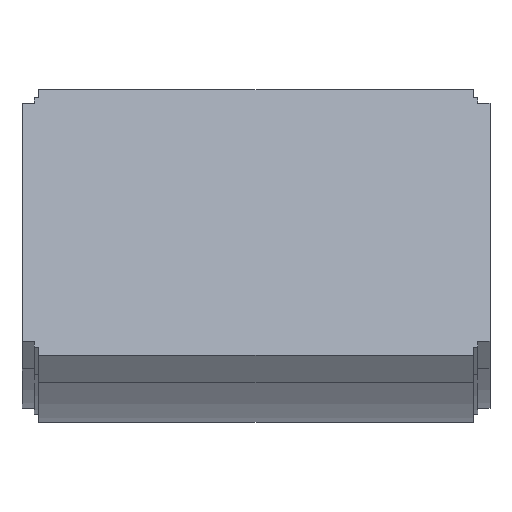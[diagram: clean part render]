
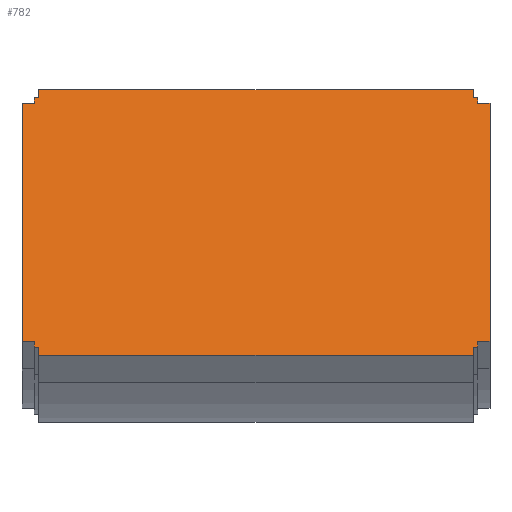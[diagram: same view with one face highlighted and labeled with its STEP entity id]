
A CAD part, top view. The second image highlights one B-rep face of the part: STEP entity #782.
In plain terms, the highlighted planar face has unit normal (0, 0.259, 0.966).
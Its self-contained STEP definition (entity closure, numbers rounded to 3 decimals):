
#21 = VERTEX_POINT ( 'NONE', #865 ) ;
#25 = ORIENTED_EDGE ( 'NONE', *, *, #665, .T. ) ;
#36 = VERTEX_POINT ( 'NONE', #970 ) ;
#56 = DIRECTION ( 'NONE',  ( 0., -0.966, 0.259 ) ) ;
#96 = CARTESIAN_POINT ( 'NONE',  ( 107.95, -31.436, 249.25 ) ) ;
#98 = DIRECTION ( 'NONE',  ( 0., -0.966, 0.259 ) ) ;
#105 = LINE ( 'NONE', #681, #911 ) ;
#112 = ORIENTED_EDGE ( 'NONE', *, *, #1090, .T. ) ;
#115 = VECTOR ( 'NONE', #56, 1000. ) ;
#126 = VERTEX_POINT ( 'NONE', #457 ) ;
#139 = VERTEX_POINT ( 'NONE', #1088 ) ;
#143 = EDGE_CURVE ( 'NONE', #708, #36, #1268, .T. ) ;
#144 = DIRECTION ( 'NONE',  ( 1., 0., 0. ) ) ;
#153 = DIRECTION ( 'NONE',  ( 0., -0.966, 0.259 ) ) ;
#165 = LINE ( 'NONE', #1083, #643 ) ;
#168 = ORIENTED_EDGE ( 'NONE', *, *, #187, .T. ) ;
#169 = VERTEX_POINT ( 'NONE', #779 ) ;
#187 = EDGE_CURVE ( 'NONE', #1043, #676, #1000, .T. ) ;
#195 = LINE ( 'NONE', #1354, #1125 ) ;
#197 = FACE_OUTER_BOUND ( 'NONE', #583, .T. ) ;
#201 = EDGE_CURVE ( 'NONE', #903, #139, #1013, .T. ) ;
#210 = AXIS2_PLACEMENT_3D ( 'NONE', #416, #830, #1140 ) ;
#244 = EDGE_CURVE ( 'NONE', #1035, #21, #450, .T. ) ;
#251 = VECTOR ( 'NONE', #874, 1000. ) ;
#255 = CARTESIAN_POINT ( 'NONE',  ( -110.25, 89.788, 216.768 ) ) ;
#262 = CARTESIAN_POINT ( 'NONE',  ( 110.25, 89.788, 216.768 ) ) ;
#265 = CARTESIAN_POINT ( 'NONE',  ( 107.95, 96.55, 214.956 ) ) ;
#283 = CARTESIAN_POINT ( 'NONE',  ( -110.25, -31.436, 249.25 ) ) ;
#298 = VECTOR ( 'NONE', #1368, 1000. ) ;
#304 = ORIENTED_EDGE ( 'NONE', *, *, #1379, .T. ) ;
#308 = EDGE_CURVE ( 'NONE', #1371, #1171, #542, .T. ) ;
#316 = ORIENTED_EDGE ( 'NONE', *, *, #694, .T. ) ;
#329 = CARTESIAN_POINT ( 'NONE',  ( -110.25, -28.538, 248.473 ) ) ;
#330 = CARTESIAN_POINT ( 'NONE',  ( 107.95, 92.686, 215.992 ) ) ;
#333 = ORIENTED_EDGE ( 'NONE', *, *, #820, .T. ) ;
#343 = VERTEX_POINT ( 'NONE', #1131 ) ;
#346 = DIRECTION ( 'NONE',  ( -1., 0., 0. ) ) ;
#355 = EDGE_CURVE ( 'NONE', #36, #1396, #1159, .T. ) ;
#357 = ORIENTED_EDGE ( 'NONE', *, *, #143, .T. ) ;
#361 = DIRECTION ( 'NONE',  ( 0., -0.966, 0.259 ) ) ;
#370 = CARTESIAN_POINT ( 'NONE',  ( -107.95, -35.299, 250.285 ) ) ;
#380 = VECTOR ( 'NONE', #656, 1000. ) ;
#395 = CARTESIAN_POINT ( 'NONE',  ( 110.25, -31.436, 249.25 ) ) ;
#402 = EDGE_CURVE ( 'NONE', #1337, #708, #717, .T. ) ;
#406 = DIRECTION ( 'NONE',  ( -1., 0., 0. ) ) ;
#411 = DIRECTION ( 'NONE',  ( 0., 0.966, -0.259 ) ) ;
#416 = CARTESIAN_POINT ( 'NONE',  ( -107.95, 92.686, 215.992 ) ) ;
#432 = VECTOR ( 'NONE', #98, 1000. ) ;
#437 = DIRECTION ( 'NONE',  ( 0., -0.966, 0.259 ) ) ;
#450 = LINE ( 'NONE', #786, #1251 ) ;
#456 = EDGE_CURVE ( 'NONE', #21, #343, #813, .T. ) ;
#457 = CARTESIAN_POINT ( 'NONE',  ( 107.95, 92.686, 215.992 ) ) ;
#464 = DIRECTION ( 'NONE',  ( 0., 0.966, -0.259 ) ) ;
#469 = EDGE_CURVE ( 'NONE', #1171, #600, #1111, .T. ) ;
#474 = CARTESIAN_POINT ( 'NONE',  ( -110.25, -31.436, 249.25 ) ) ;
#475 = ORIENTED_EDGE ( 'NONE', *, *, #997, .T. ) ;
#481 = CARTESIAN_POINT ( 'NONE',  ( 107.95, -31.436, 249.25 ) ) ;
#496 = VECTOR ( 'NONE', #411, 1000. ) ;
#513 = CARTESIAN_POINT ( 'NONE',  ( -107.95, -31.436, 249.25 ) ) ;
#527 = VECTOR ( 'NONE', #144, 1000. ) ;
#542 = LINE ( 'NONE', #474, #527 ) ;
#549 = ORIENTED_EDGE ( 'NONE', *, *, #355, .T. ) ;
#551 = ORIENTED_EDGE ( 'NONE', *, *, #308, .T. ) ;
#573 = DIRECTION ( 'NONE',  ( -1., 0., 0. ) ) ;
#575 = CARTESIAN_POINT ( 'NONE',  ( -116.25, -28.538, 248.473 ) ) ;
#583 = EDGE_LOOP ( 'NONE', ( #670, #1130, #168, #1161, #316, #650, #551, #1135, #1046, #604, #357, #549, #112, #333, #25, #1216, #475, #304, #714, #831 ) ) ;
#584 = CARTESIAN_POINT ( 'NONE',  ( 116.25, 89.788, 216.768 ) ) ;
#590 = DIRECTION ( 'NONE',  ( 1., 0., 0. ) ) ;
#594 = EDGE_CURVE ( 'NONE', #343, #1043, #105, .T. ) ;
#600 = VERTEX_POINT ( 'NONE', #893 ) ;
#604 = ORIENTED_EDGE ( 'NONE', *, *, #402, .T. ) ;
#606 = VERTEX_POINT ( 'NONE', #575 ) ;
#617 = CARTESIAN_POINT ( 'NONE',  ( 116.25, -28.538, 248.473 ) ) ;
#632 = DIRECTION ( 'NONE',  ( 0., 0.966, -0.259 ) ) ;
#636 = VERTEX_POINT ( 'NONE', #265 ) ;
#643 = VECTOR ( 'NONE', #1070, 1000. ) ;
#650 = ORIENTED_EDGE ( 'NONE', *, *, #1034, .T. ) ;
#656 = DIRECTION ( 'NONE',  ( 1., 0., 0. ) ) ;
#665 = EDGE_CURVE ( 'NONE', #929, #903, #795, .T. ) ;
#666 = CARTESIAN_POINT ( 'NONE',  ( 110.25, -31.436, 249.25 ) ) ;
#670 = ORIENTED_EDGE ( 'NONE', *, *, #456, .T. ) ;
#676 = VERTEX_POINT ( 'NONE', #1239 ) ;
#681 = CARTESIAN_POINT ( 'NONE',  ( -110.25, 92.686, 215.992 ) ) ;
#689 = DIRECTION ( 'NONE',  ( 1., 0., 0. ) ) ;
#694 = EDGE_CURVE ( 'NONE', #606, #169, #1127, .T. ) ;
#700 = VECTOR ( 'NONE', #590, 1000. ) ;
#707 = CARTESIAN_POINT ( 'NONE',  ( -107.95, 96.55, 214.956 ) ) ;
#708 = VERTEX_POINT ( 'NONE', #481 ) ;
#714 = ORIENTED_EDGE ( 'NONE', *, *, #873, .T. ) ;
#716 = VECTOR ( 'NONE', #632, 1000. ) ;
#717 = LINE ( 'NONE', #96, #496 ) ;
#744 = LINE ( 'NONE', #918, #716 ) ;
#747 = VECTOR ( 'NONE', #406, 1000. ) ;
#779 = CARTESIAN_POINT ( 'NONE',  ( -110.25, -28.538, 248.473 ) ) ;
#782 = ADVANCED_FACE ( 'NONE', ( #197 ), #1365, .T. ) ;
#786 = CARTESIAN_POINT ( 'NONE',  ( -107.95, 92.686, 215.992 ) ) ;
#795 = LINE ( 'NONE', #1383, #1367 ) ;
#796 = CARTESIAN_POINT ( 'NONE',  ( 110.25, 92.686, 215.992 ) ) ;
#813 = LINE ( 'NONE', #1269, #747 ) ;
#820 = EDGE_CURVE ( 'NONE', #1204, #929, #744, .T. ) ;
#821 = VECTOR ( 'NONE', #346, 1000. ) ;
#830 = DIRECTION ( 'NONE',  ( 0., 0.259, 0.966 ) ) ;
#831 = ORIENTED_EDGE ( 'NONE', *, *, #244, .T. ) ;
#840 = CARTESIAN_POINT ( 'NONE',  ( -116.25, -28.538, 248.473 ) ) ;
#865 = CARTESIAN_POINT ( 'NONE',  ( -107.95, 92.686, 215.992 ) ) ;
#866 = CARTESIAN_POINT ( 'NONE',  ( 110.25, -28.538, 248.473 ) ) ;
#873 = EDGE_CURVE ( 'NONE', #636, #1035, #1286, .T. ) ;
#874 = DIRECTION ( 'NONE',  ( 0., 0.966, -0.259 ) ) ;
#889 = EDGE_CURVE ( 'NONE', #600, #1337, #976, .T. ) ;
#893 = CARTESIAN_POINT ( 'NONE',  ( -107.95, -35.299, 250.285 ) ) ;
#903 = VERTEX_POINT ( 'NONE', #262 ) ;
#911 = VECTOR ( 'NONE', #361, 1000. ) ;
#918 = CARTESIAN_POINT ( 'NONE',  ( 116.25, -28.538, 248.473 ) ) ;
#929 = VERTEX_POINT ( 'NONE', #584 ) ;
#958 = VECTOR ( 'NONE', #573, 1000. ) ;
#970 = CARTESIAN_POINT ( 'NONE',  ( 110.25, -31.436, 249.25 ) ) ;
#976 = LINE ( 'NONE', #370, #700 ) ;
#982 = CARTESIAN_POINT ( 'NONE',  ( -107.95, -31.436, 249.25 ) ) ;
#983 = CARTESIAN_POINT ( 'NONE',  ( -107.95, 96.55, 214.956 ) ) ;
#997 = EDGE_CURVE ( 'NONE', #139, #126, #195, .T. ) ;
#1000 = LINE ( 'NONE', #255, #958 ) ;
#1013 = LINE ( 'NONE', #796, #1097 ) ;
#1034 = EDGE_CURVE ( 'NONE', #169, #1371, #1386, .T. ) ;
#1035 = VERTEX_POINT ( 'NONE', #707 ) ;
#1043 = VERTEX_POINT ( 'NONE', #1240 ) ;
#1046 = ORIENTED_EDGE ( 'NONE', *, *, #889, .T. ) ;
#1070 = DIRECTION ( 'NONE',  ( 1., 0., 0. ) ) ;
#1075 = VECTOR ( 'NONE', #689, 1000. ) ;
#1081 = CARTESIAN_POINT ( 'NONE',  ( -110.25, -31.436, 249.25 ) ) ;
#1083 = CARTESIAN_POINT ( 'NONE',  ( 110.25, -28.538, 248.473 ) ) ;
#1088 = CARTESIAN_POINT ( 'NONE',  ( 110.25, 92.686, 215.992 ) ) ;
#1090 = EDGE_CURVE ( 'NONE', #1396, #1204, #165, .T. ) ;
#1097 = VECTOR ( 'NONE', #464, 1000. ) ;
#1111 = LINE ( 'NONE', #513, #432 ) ;
#1125 = VECTOR ( 'NONE', #1341, 1000. ) ;
#1127 = LINE ( 'NONE', #329, #380 ) ;
#1130 = ORIENTED_EDGE ( 'NONE', *, *, #594, .T. ) ;
#1131 = CARTESIAN_POINT ( 'NONE',  ( -110.25, 92.686, 215.992 ) ) ;
#1134 = DIRECTION ( 'NONE',  ( -1., 0., 0. ) ) ;
#1135 = ORIENTED_EDGE ( 'NONE', *, *, #469, .T. ) ;
#1140 = DIRECTION ( 'NONE',  ( 1., 0., 0. ) ) ;
#1141 = VECTOR ( 'NONE', #437, 1000. ) ;
#1159 = LINE ( 'NONE', #395, #298 ) ;
#1161 = ORIENTED_EDGE ( 'NONE', *, *, #1224, .T. ) ;
#1171 = VERTEX_POINT ( 'NONE', #982 ) ;
#1172 = LINE ( 'NONE', #840, #1141 ) ;
#1204 = VERTEX_POINT ( 'NONE', #617 ) ;
#1216 = ORIENTED_EDGE ( 'NONE', *, *, #201, .T. ) ;
#1224 = EDGE_CURVE ( 'NONE', #676, #606, #1172, .T. ) ;
#1239 = CARTESIAN_POINT ( 'NONE',  ( -116.25, 89.788, 216.768 ) ) ;
#1240 = CARTESIAN_POINT ( 'NONE',  ( -110.25, 89.788, 216.768 ) ) ;
#1248 = LINE ( 'NONE', #330, #251 ) ;
#1251 = VECTOR ( 'NONE', #153, 1000. ) ;
#1268 = LINE ( 'NONE', #666, #1075 ) ;
#1269 = CARTESIAN_POINT ( 'NONE',  ( -110.25, 92.686, 215.992 ) ) ;
#1286 = LINE ( 'NONE', #983, #821 ) ;
#1337 = VERTEX_POINT ( 'NONE', #1398 ) ;
#1341 = DIRECTION ( 'NONE',  ( -1., 0., 0. ) ) ;
#1354 = CARTESIAN_POINT ( 'NONE',  ( 110.25, 92.686, 215.992 ) ) ;
#1365 = PLANE ( 'NONE',  #210 ) ;
#1367 = VECTOR ( 'NONE', #1134, 1000. ) ;
#1368 = DIRECTION ( 'NONE',  ( 0., 0.966, -0.259 ) ) ;
#1371 = VERTEX_POINT ( 'NONE', #1081 ) ;
#1379 = EDGE_CURVE ( 'NONE', #126, #636, #1248, .T. ) ;
#1383 = CARTESIAN_POINT ( 'NONE',  ( 110.25, 89.788, 216.768 ) ) ;
#1386 = LINE ( 'NONE', #283, #115 ) ;
#1396 = VERTEX_POINT ( 'NONE', #866 ) ;
#1398 = CARTESIAN_POINT ( 'NONE',  ( 107.95, -35.299, 250.285 ) ) ;
